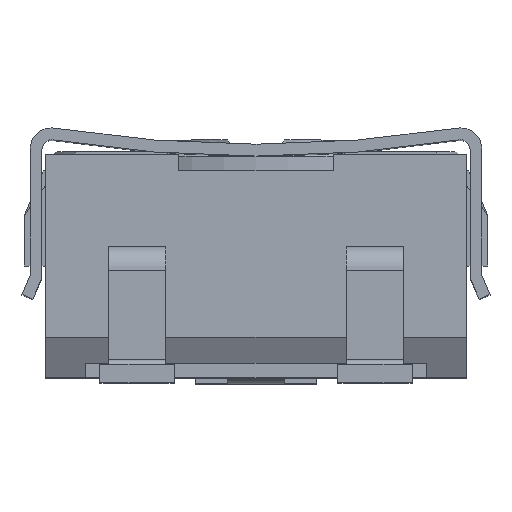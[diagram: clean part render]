
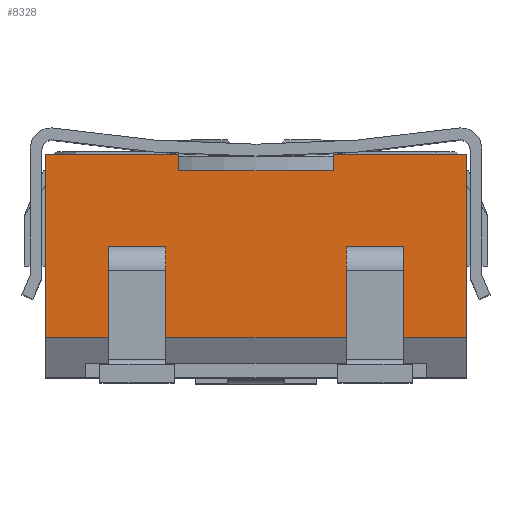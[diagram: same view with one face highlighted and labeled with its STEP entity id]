
A CAD part, top view. The second image highlights one B-rep face of the part: STEP entity #8328.
In plain terms, the highlighted planar face has unit normal (0, 0, 1).
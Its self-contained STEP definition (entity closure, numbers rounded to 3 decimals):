
#535=LINE('',#11919,#1186);
#540=LINE('',#11928,#1191);
#542=LINE('',#11932,#1193);
#682=LINE('',#12326,#1333);
#683=LINE('',#12328,#1334);
#684=LINE('',#12330,#1335);
#685=LINE('',#12332,#1336);
#686=LINE('',#12334,#1337);
#687=LINE('',#12335,#1338);
#688=LINE('',#12338,#1339);
#689=LINE('',#12340,#1340);
#690=LINE('',#12342,#1341);
#691=LINE('',#12343,#1342);
#692=LINE('',#12346,#1343);
#693=LINE('',#12348,#1344);
#694=LINE('',#12350,#1345);
#1186=VECTOR('',#9460,1000.);
#1191=VECTOR('',#9467,1000.);
#1193=VECTOR('',#9471,1000.);
#1333=VECTOR('',#9751,1000.);
#1334=VECTOR('',#9754,1000.);
#1335=VECTOR('',#9755,1000.);
#1336=VECTOR('',#9756,1000.);
#1337=VECTOR('',#9757,1000.);
#1338=VECTOR('',#9758,1000.);
#1339=VECTOR('',#9759,1000.);
#1340=VECTOR('',#9760,1000.);
#1341=VECTOR('',#9761,1000.);
#1342=VECTOR('',#9762,1000.);
#1343=VECTOR('',#9763,1000.);
#1344=VECTOR('',#9764,1000.);
#1345=VECTOR('',#9765,1000.);
#2419=ORIENTED_EDGE('',*,*,#3656,.F.);
#2420=ORIENTED_EDGE('',*,*,#3839,.F.);
#2421=ORIENTED_EDGE('',*,*,#3840,.F.);
#2422=ORIENTED_EDGE('',*,*,#3841,.F.);
#2423=ORIENTED_EDGE('',*,*,#3842,.T.);
#2424=ORIENTED_EDGE('',*,*,#3843,.F.);
#2425=ORIENTED_EDGE('',*,*,#3663,.F.);
#2426=ORIENTED_EDGE('',*,*,#3661,.T.);
#2427=ORIENTED_EDGE('',*,*,#3844,.T.);
#2428=ORIENTED_EDGE('',*,*,#3845,.T.);
#2429=ORIENTED_EDGE('',*,*,#3846,.T.);
#2430=ORIENTED_EDGE('',*,*,#3847,.F.);
#2431=ORIENTED_EDGE('',*,*,#3848,.T.);
#2432=ORIENTED_EDGE('',*,*,#3849,.T.);
#2433=ORIENTED_EDGE('',*,*,#3850,.T.);
#2434=ORIENTED_EDGE('',*,*,#3851,.F.);
#3656=EDGE_CURVE('',#4420,#4421,#535,.T.);
#3661=EDGE_CURVE('',#4424,#4421,#540,.T.);
#3663=EDGE_CURVE('',#4424,#4425,#542,.T.);
#3839=EDGE_CURVE('',#4554,#4420,#682,.T.);
#3840=EDGE_CURVE('',#4555,#4554,#683,.T.);
#3841=EDGE_CURVE('',#4556,#4555,#684,.T.);
#3842=EDGE_CURVE('',#4556,#4557,#685,.T.);
#3843=EDGE_CURVE('',#4425,#4557,#686,.T.);
#3844=EDGE_CURVE('',#4558,#4559,#687,.T.);
#3845=EDGE_CURVE('',#4559,#4560,#688,.T.);
#3846=EDGE_CURVE('',#4560,#4561,#689,.T.);
#3847=EDGE_CURVE('',#4558,#4561,#690,.T.);
#3848=EDGE_CURVE('',#4562,#4563,#691,.T.);
#3849=EDGE_CURVE('',#4563,#4564,#692,.T.);
#3850=EDGE_CURVE('',#4564,#4565,#693,.T.);
#3851=EDGE_CURVE('',#4562,#4565,#694,.T.);
#4420=VERTEX_POINT('',#11918);
#4421=VERTEX_POINT('',#11920);
#4424=VERTEX_POINT('',#11929);
#4425=VERTEX_POINT('',#11933);
#4554=VERTEX_POINT('',#12325);
#4555=VERTEX_POINT('',#12329);
#4556=VERTEX_POINT('',#12331);
#4557=VERTEX_POINT('',#12333);
#4558=VERTEX_POINT('',#12336);
#4559=VERTEX_POINT('',#12337);
#4560=VERTEX_POINT('',#12339);
#4561=VERTEX_POINT('',#12341);
#4562=VERTEX_POINT('',#12344);
#4563=VERTEX_POINT('',#12345);
#4564=VERTEX_POINT('',#12347);
#4565=VERTEX_POINT('',#12349);
#5038=EDGE_LOOP('',(#2419,#2420,#2421,#2422,#2423,#2424,#2425,#2426));
#5039=EDGE_LOOP('',(#2427,#2428,#2429,#2430));
#5040=EDGE_LOOP('',(#2431,#2432,#2433,#2434));
#5410=FACE_BOUND('',#5038,.T.);
#5411=FACE_BOUND('',#5039,.T.);
#5412=FACE_BOUND('',#5040,.T.);
#5734=PLANE('',#8681);
#8328=ADVANCED_FACE('',(#5410,#5411,#5412),#5734,.T.);
#8681=AXIS2_PLACEMENT_3D('',#12327,#9752,#9753);
#9460=DIRECTION('',(0.,-1.,0.));
#9467=DIRECTION('',(1.,0.,0.));
#9471=DIRECTION('',(0.,1.,0.));
#9751=DIRECTION('',(1.,0.,0.));
#9752=DIRECTION('',(0.,0.,1.));
#9753=DIRECTION('',(1.,0.,0.));
#9754=DIRECTION('',(0.,1.,0.));
#9755=DIRECTION('',(1.,0.,0.));
#9756=DIRECTION('',(0.,1.,0.));
#9757=DIRECTION('',(1.,0.,0.));
#9758=DIRECTION('',(-1.,0.,0.));
#9759=DIRECTION('',(0.,1.,0.));
#9760=DIRECTION('',(1.,0.,0.));
#9761=DIRECTION('',(0.,1.,0.));
#9762=DIRECTION('',(-1.,0.,0.));
#9763=DIRECTION('',(0.,1.,0.));
#9764=DIRECTION('',(1.,0.,0.));
#9765=DIRECTION('',(0.,1.,0.));
#11918=CARTESIAN_POINT('',(2.248,2.388,2.25));
#11919=CARTESIAN_POINT('',(2.248,2.388,2.25));
#11920=CARTESIAN_POINT('',(2.248,0.432,2.25));
#11928=CARTESIAN_POINT('',(-2.248,0.432,2.25));
#11929=CARTESIAN_POINT('',(-2.248,0.432,2.25));
#11932=CARTESIAN_POINT('',(-2.248,0.432,2.25));
#11933=CARTESIAN_POINT('',(-2.248,2.388,2.25));
#12325=CARTESIAN_POINT('',(0.826,2.388,2.25));
#12326=CARTESIAN_POINT('',(0.826,2.388,2.25));
#12327=CARTESIAN_POINT('',(-2.248,0.,2.25));
#12328=CARTESIAN_POINT('',(0.826,2.21,2.25));
#12329=CARTESIAN_POINT('',(0.826,2.21,2.25));
#12330=CARTESIAN_POINT('',(-0.826,2.21,2.25));
#12331=CARTESIAN_POINT('',(-0.826,2.21,2.25));
#12332=CARTESIAN_POINT('',(-0.826,2.21,2.25));
#12333=CARTESIAN_POINT('',(-0.826,2.388,2.25));
#12334=CARTESIAN_POINT('',(-2.248,2.388,2.25));
#12335=CARTESIAN_POINT('',(1.575,1.194,2.25));
#12336=CARTESIAN_POINT('',(1.575,1.194,2.25));
#12337=CARTESIAN_POINT('',(0.965,1.194,2.25));
#12338=CARTESIAN_POINT('',(0.965,1.194,2.25));
#12339=CARTESIAN_POINT('',(0.965,1.397,2.25));
#12340=CARTESIAN_POINT('',(0.965,1.397,2.25));
#12341=CARTESIAN_POINT('',(1.575,1.397,2.25));
#12342=CARTESIAN_POINT('',(1.575,1.194,2.25));
#12343=CARTESIAN_POINT('',(-0.965,1.194,2.25));
#12344=CARTESIAN_POINT('',(-0.965,1.194,2.25));
#12345=CARTESIAN_POINT('',(-1.575,1.194,2.25));
#12346=CARTESIAN_POINT('',(-1.575,1.194,2.25));
#12347=CARTESIAN_POINT('',(-1.575,1.397,2.25));
#12348=CARTESIAN_POINT('',(-1.575,1.397,2.25));
#12349=CARTESIAN_POINT('',(-0.965,1.397,2.25));
#12350=CARTESIAN_POINT('',(-0.965,1.194,2.25));
